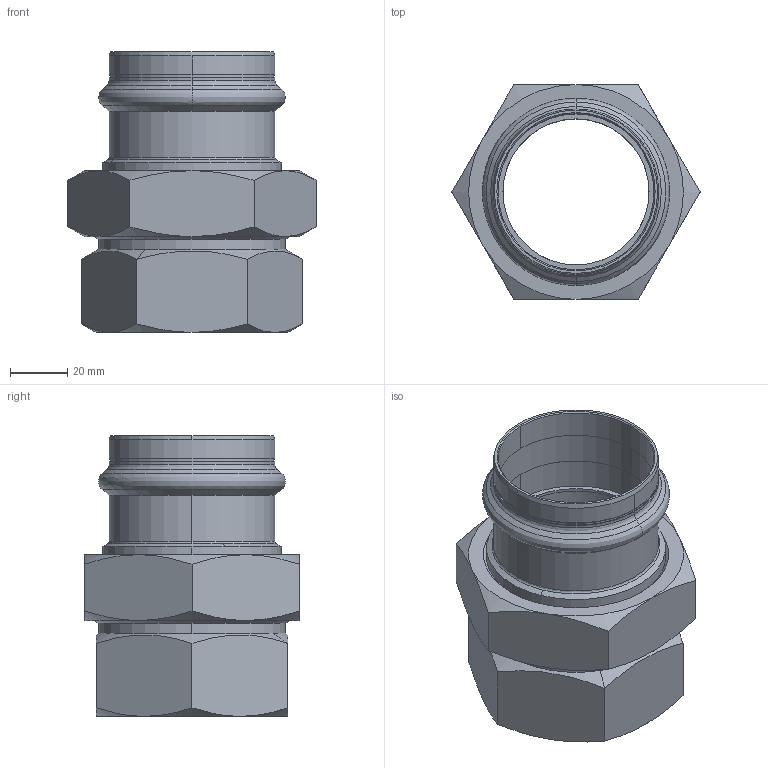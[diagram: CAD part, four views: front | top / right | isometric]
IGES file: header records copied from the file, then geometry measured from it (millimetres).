
Start section: Elysium IGES Interface
Global section: file name: F:\3d modellen sudo\S-Pr VP\SP6330GV\6330GVW542.igs; native system: CoCreate Modeling 17.00A  17-Jun-2010; preprocessor: CoCreate IGES_3D V2.2; author: Unknown; organization: Unknown; date: 20130129.095059; units: millimetre
Bounding box: 86.6 x 75 x 98 mm (x, y, z)
Volume: 118185.9 mm3; surface area: 55788.6 mm2
Topology: 3 solids, 3 shells, 130 faces, 306 edges, 186 vertices
Faces by surface type: bspline 130
